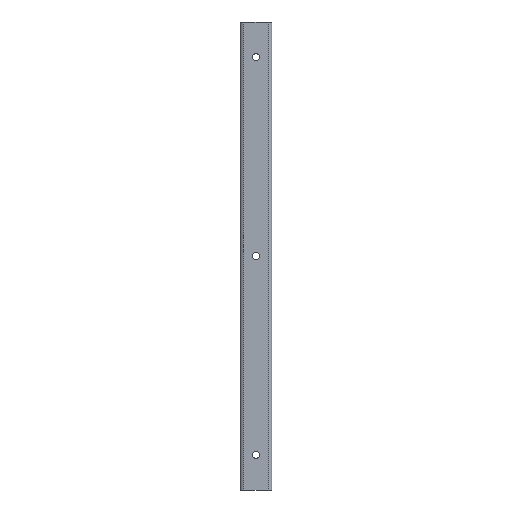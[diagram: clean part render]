
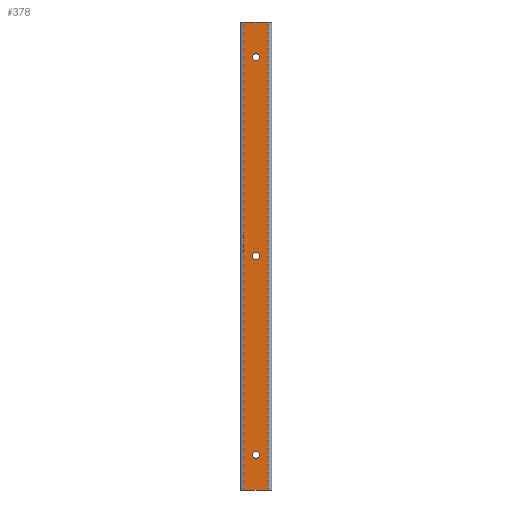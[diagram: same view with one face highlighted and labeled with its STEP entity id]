
A CAD part, front view. The second image highlights one B-rep face of the part: STEP entity #378.
In plain terms, the highlighted planar face has unit normal (0, -1, 0).
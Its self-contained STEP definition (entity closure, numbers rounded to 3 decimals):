
#1 = ORIENTED_EDGE ( 'NONE', *, *, #401, .F. ) ;
#4 = ORIENTED_EDGE ( 'NONE', *, *, #402, .F. ) ;
#5 = ORIENTED_EDGE ( 'NONE', *, *, #396, .T. ) ;
#6 = ORIENTED_EDGE ( 'NONE', *, *, #403, .T. ) ;
#7 = ORIENTED_EDGE ( 'NONE', *, *, #147, .T. ) ;
#29 = AXIS2_PLACEMENT_3D ( 'NONE', #799, #796, #801 ) ;
#49 = AXIS2_PLACEMENT_3D ( 'NONE', #869, #870, #871 ) ;
#50 = AXIS2_PLACEMENT_3D ( 'NONE', #873, #874, #875 ) ;
#51 = AXIS2_PLACEMENT_3D ( 'NONE', #881, #882, #883 ) ;
#81 = EDGE_LOOP ( 'NONE', ( #199, #201 ) ) ;
#82 = EDGE_LOOP ( 'NONE', ( #203, #202 ) ) ;
#83 = EDGE_LOOP ( 'NONE', ( #6, #7 ) ) ;
#84 = EDGE_LOOP ( 'NONE', ( #204, #1, #4, #5 ) ) ;
#147 = EDGE_CURVE ( 'NONE', #469, #466, #597, .T. ) ;
#149 = EDGE_CURVE ( 'NONE', #472, #471, #606, .T. ) ;
#153 = EDGE_CURVE ( 'NONE', #474, #475, #612, .T. ) ;
#199 = ORIENTED_EDGE ( 'NONE', *, *, #398, .T. ) ;
#201 = ORIENTED_EDGE ( 'NONE', *, *, #149, .T. ) ;
#202 = ORIENTED_EDGE ( 'NONE', *, *, #153, .T. ) ;
#203 = ORIENTED_EDGE ( 'NONE', *, *, #399, .T. ) ;
#204 = ORIENTED_EDGE ( 'NONE', *, *, #400, .T. ) ;
#313 = CARTESIAN_POINT ( 'NONE',  ( 13.5, 0., 30. ) ) ;
#314 = DIRECTION ( 'NONE',  ( 0., 1., 0. ) ) ;
#315 = DIRECTION ( 'NONE',  ( 0., 0., 1. ) ) ;
#318 = CARTESIAN_POINT ( 'NONE',  ( 13.5, 0., 200. ) ) ;
#319 = DIRECTION ( 'NONE',  ( 0., 1., 0. ) ) ;
#320 = DIRECTION ( 'NONE',  ( 0., 0., 1. ) ) ;
#328 = CARTESIAN_POINT ( 'NONE',  ( 13.5, 0., 370. ) ) ;
#329 = DIRECTION ( 'NONE',  ( 0., 1., 0. ) ) ;
#330 = DIRECTION ( 'NONE',  ( 0., 0., 1. ) ) ;
#378 = ADVANCED_FACE ( 'NONE', ( #662, #668, #651, #665 ), #797, .F. ) ;
#396 = EDGE_CURVE ( 'NONE', #492, #486, #701, .T. ) ;
#398 = EDGE_CURVE ( 'NONE', #471, #472, #704, .T. ) ;
#399 = EDGE_CURVE ( 'NONE', #475, #474, #705, .T. ) ;
#400 = EDGE_CURVE ( 'NONE', #486, #487, #706, .T. ) ;
#401 = EDGE_CURVE ( 'NONE', #489, #487, #707, .T. ) ;
#402 = EDGE_CURVE ( 'NONE', #492, #489, #702, .T. ) ;
#403 = EDGE_CURVE ( 'NONE', #466, #469, #711, .T. ) ;
#436 = AXIS2_PLACEMENT_3D ( 'NONE', #313, #314, #315 ) ;
#437 = AXIS2_PLACEMENT_3D ( 'NONE', #318, #319, #320 ) ;
#439 = AXIS2_PLACEMENT_3D ( 'NONE', #328, #329, #330 ) ;
#466 = VERTEX_POINT ( 'NONE', #927 ) ;
#469 = VERTEX_POINT ( 'NONE', #931 ) ;
#471 = VERTEX_POINT ( 'NONE', #933 ) ;
#472 = VERTEX_POINT ( 'NONE', #936 ) ;
#474 = VERTEX_POINT ( 'NONE', #937 ) ;
#475 = VERTEX_POINT ( 'NONE', #938 ) ;
#486 = VERTEX_POINT ( 'NONE', #949 ) ;
#487 = VERTEX_POINT ( 'NONE', #950 ) ;
#489 = VERTEX_POINT ( 'NONE', #952 ) ;
#492 = VERTEX_POINT ( 'NONE', #955 ) ;
#597 = CIRCLE ( 'NONE', #436, 3. ) ;
#606 = CIRCLE ( 'NONE', #437, 3. ) ;
#612 = CIRCLE ( 'NONE', #439, 3. ) ;
#651 = FACE_OUTER_BOUND ( 'NONE', #84, .T. ) ;
#662 = FACE_BOUND ( 'NONE', #81, .T. ) ;
#665 = FACE_BOUND ( 'NONE', #83, .T. ) ;
#668 = FACE_BOUND ( 'NONE', #82, .T. ) ;
#701 = LINE ( 'NONE', #858, #703 ) ;
#702 = LINE ( 'NONE', #872, #712 ) ;
#703 = VECTOR ( 'NONE', #855, 1000. ) ;
#704 = CIRCLE ( 'NONE', #49, 3. ) ;
#705 = CIRCLE ( 'NONE', #50, 3. ) ;
#706 = LINE ( 'NONE', #867, #708 ) ;
#707 = LINE ( 'NONE', #876, #710 ) ;
#708 = VECTOR ( 'NONE', #868, 1000. ) ;
#710 = VECTOR ( 'NONE', #877, 1000. ) ;
#711 = CIRCLE ( 'NONE', #51, 3. ) ;
#712 = VECTOR ( 'NONE', #878, 1000. ) ;
#796 = DIRECTION ( 'NONE',  ( 0., 1., 0. ) ) ;
#797 = PLANE ( 'NONE',  #29 ) ;
#799 = CARTESIAN_POINT ( 'NONE',  ( 3., 0., 400. ) ) ;
#801 = DIRECTION ( 'NONE',  ( 0., 0., 1. ) ) ;
#855 = DIRECTION ( 'NONE',  ( 0., 0., -1. ) ) ;
#858 = CARTESIAN_POINT ( 'NONE',  ( 3., 0., 400. ) ) ;
#867 = CARTESIAN_POINT ( 'NONE',  ( 3., 0., 0. ) ) ;
#868 = DIRECTION ( 'NONE',  ( 1., 0., 0. ) ) ;
#869 = CARTESIAN_POINT ( 'NONE',  ( 13.5, 0., 200. ) ) ;
#870 = DIRECTION ( 'NONE',  ( 0., 1., 0. ) ) ;
#871 = DIRECTION ( 'NONE',  ( 0., 0., 1. ) ) ;
#872 = CARTESIAN_POINT ( 'NONE',  ( 3., 0., 400. ) ) ;
#873 = CARTESIAN_POINT ( 'NONE',  ( 13.5, 0., 370. ) ) ;
#874 = DIRECTION ( 'NONE',  ( 0., 1., 0. ) ) ;
#875 = DIRECTION ( 'NONE',  ( 0., 0., 1. ) ) ;
#876 = CARTESIAN_POINT ( 'NONE',  ( 24., 0., 400. ) ) ;
#877 = DIRECTION ( 'NONE',  ( 0., 0., -1. ) ) ;
#878 = DIRECTION ( 'NONE',  ( 1., 0., 0. ) ) ;
#881 = CARTESIAN_POINT ( 'NONE',  ( 13.5, 0., 30. ) ) ;
#882 = DIRECTION ( 'NONE',  ( 0., 1., 0. ) ) ;
#883 = DIRECTION ( 'NONE',  ( 0., 0., 1. ) ) ;
#927 = CARTESIAN_POINT ( 'NONE',  ( 10.5, 0., 30. ) ) ;
#931 = CARTESIAN_POINT ( 'NONE',  ( 16.5, 0., 30. ) ) ;
#933 = CARTESIAN_POINT ( 'NONE',  ( 10.5, 0., 200. ) ) ;
#936 = CARTESIAN_POINT ( 'NONE',  ( 16.5, 0., 200. ) ) ;
#937 = CARTESIAN_POINT ( 'NONE',  ( 16.5, 0., 370. ) ) ;
#938 = CARTESIAN_POINT ( 'NONE',  ( 10.5, 0., 370. ) ) ;
#949 = CARTESIAN_POINT ( 'NONE',  ( 3., 0., 0. ) ) ;
#950 = CARTESIAN_POINT ( 'NONE',  ( 24., 0., 0. ) ) ;
#952 = CARTESIAN_POINT ( 'NONE',  ( 24., 0., 400. ) ) ;
#955 = CARTESIAN_POINT ( 'NONE',  ( 3., 0., 400. ) ) ;
